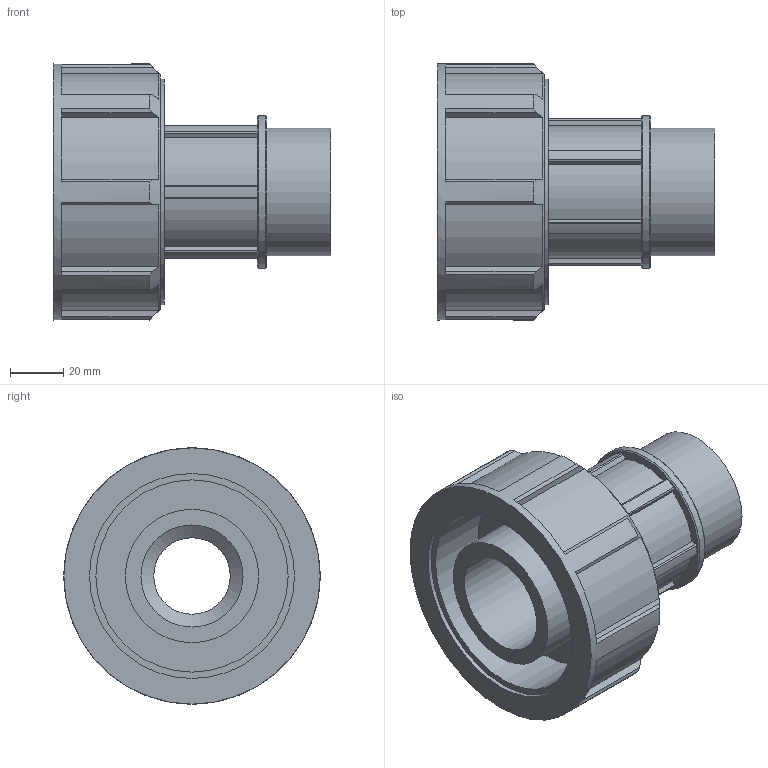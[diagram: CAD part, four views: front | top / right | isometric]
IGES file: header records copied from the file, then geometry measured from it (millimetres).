
Global section: file name: 072500050015_182500050015_0725060500150A.ipt; native system: Autodesk Inventor 2015; preprocessor: unknown; author: KIM; date: 20170608.042154; units: millimetre
Bounding box: 104 x 96 x 96 mm (x, y, z)
Volume: 225124.5 mm3; surface area: 63437.2 mm2
Topology: 1 solids, 1 shells, 108 faces, 300 edges, 202 vertices
Faces by surface type: plane 74, cylinder 25, revolution 6, cone 3
Full cylindrical faces by diameter (mm): 47.803 x1, 50 x1, 57.364 x1, 84.48 x1, 96 x1
